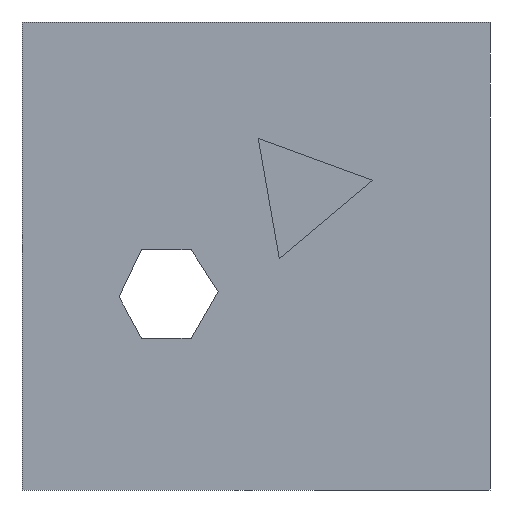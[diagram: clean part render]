
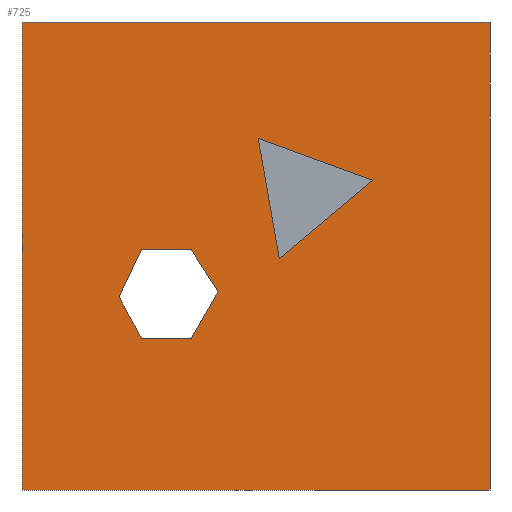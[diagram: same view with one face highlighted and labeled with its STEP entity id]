
A CAD part, front view. The second image highlights one B-rep face of the part: STEP entity #725.
In plain terms, the highlighted planar face has unit normal (0, -1, 0).
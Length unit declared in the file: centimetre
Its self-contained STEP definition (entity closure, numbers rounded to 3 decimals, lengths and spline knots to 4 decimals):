
#6 = EDGE_LOOP ( 'NONE', ( #777, #67, #100, #116 ) ) ;
#13 = FACE_OUTER_BOUND ( 'NONE', #6, .T. ) ;
#20 = VECTOR ( 'NONE', #1032, 100. ) ;
#27 = ORIENTED_EDGE ( 'NONE', *, *, #543, .F. ) ;
#40 = ORIENTED_EDGE ( 'NONE', *, *, #84, .F. ) ;
#41 = LINE ( 'NONE', #1052, #970 ) ;
#52 = LINE ( 'NONE', #1061, #506 ) ;
#53 = EDGE_CURVE ( 'NONE', #765, #374, #118, .T. ) ;
#67 = ORIENTED_EDGE ( 'NONE', *, *, #463, .F. ) ;
#73 = DIRECTION ( 'NONE',  ( 0., 0., -1. ) ) ;
#75 = AXIS2_PLACEMENT_3D ( 'NONE', #597, #519, #588 ) ;
#84 = EDGE_CURVE ( 'NONE', #95, #111, #41, .T. ) ;
#91 = CARTESIAN_POINT ( 'NONE',  ( 0., 0., 1000. ) ) ;
#95 = VERTEX_POINT ( 'NONE', #453 ) ;
#99 = CARTESIAN_POINT ( 'NONE',  ( 504.7538, 0., 751.1701 ) ) ;
#100 = ORIENTED_EDGE ( 'NONE', *, *, #764, .F. ) ;
#106 = EDGE_CURVE ( 'NONE', #518, #203, #878, .T. ) ;
#111 = VERTEX_POINT ( 'NONE', #1042 ) ;
#116 = ORIENTED_EDGE ( 'NONE', *, *, #708, .T. ) ;
#118 = LINE ( 'NONE', #950, #852 ) ;
#142 = LINE ( 'NONE', #732, #198 ) ;
#158 = EDGE_CURVE ( 'NONE', #442, #95, #536, .T. ) ;
#187 = CARTESIAN_POINT ( 'NONE',  ( 1000., 0., 1000. ) ) ;
#193 = DIRECTION ( 'NONE',  ( -0.547, 0., 0.837 ) ) ;
#198 = VECTOR ( 'NONE', #385, 100. ) ;
#199 = CARTESIAN_POINT ( 'NONE',  ( 255.4665, 0., 513.0383 ) ) ;
#203 = VERTEX_POINT ( 'NONE', #317 ) ;
#211 = CARTESIAN_POINT ( 'NONE',  ( 549.8069, 0., 494.3739 ) ) ;
#225 = ORIENTED_EDGE ( 'NONE', *, *, #967, .F. ) ;
#247 = CARTESIAN_POINT ( 'NONE',  ( 0., 0., 0. ) ) ;
#248 = CARTESIAN_POINT ( 'NONE',  ( 361.3279, 0., 513.0383 ) ) ;
#249 = ORIENTED_EDGE ( 'NONE', *, *, #53, .F. ) ;
#252 = CARTESIAN_POINT ( 'NONE',  ( 0., 0., 1000. ) ) ;
#253 = CARTESIAN_POINT ( 'NONE',  ( 0., 0., 0. ) ) ;
#270 = FACE_BOUND ( 'NONE', #886, .T. ) ;
#290 = VECTOR ( 'NONE', #779, 100. ) ;
#317 = CARTESIAN_POINT ( 'NONE',  ( 361.3279, 0., 513.0383 ) ) ;
#322 = VERTEX_POINT ( 'NONE', #253 ) ;
#341 = ORIENTED_EDGE ( 'NONE', *, *, #158, .F. ) ;
#350 = EDGE_CURVE ( 'NONE', #586, #765, #772, .T. ) ;
#374 = VERTEX_POINT ( 'NONE', #211 ) ;
#382 = CARTESIAN_POINT ( 'NONE',  ( 207.6114, 0., 412.5683 ) ) ;
#385 = DIRECTION ( 'NONE',  ( 0.5, 0., 0.866 ) ) ;
#395 = VECTOR ( 'NONE', #593, 100. ) ;
#435 = CARTESIAN_POINT ( 'NONE',  ( 419.3343, 0., 424.29 ) ) ;
#442 = VERTEX_POINT ( 'NONE', #580 ) ;
#453 = CARTESIAN_POINT ( 'NONE',  ( 255.4665, 0., 323.82 ) ) ;
#463 = EDGE_CURVE ( 'NONE', #928, #882, #819, .T. ) ;
#466 = CARTESIAN_POINT ( 'NONE',  ( 419.3343, 0., 424.29 ) ) ;
#472 = DIRECTION ( 'NONE',  ( -0.43, 0., -0.903 ) ) ;
#486 = CARTESIAN_POINT ( 'NONE',  ( 749.6724, 0., 661.7891 ) ) ;
#506 = VECTOR ( 'NONE', #472, 100. ) ;
#518 = VERTEX_POINT ( 'NONE', #435 ) ;
#519 = DIRECTION ( 'NONE',  ( 0., 1., 0. ) ) ;
#524 = LINE ( 'NONE', #1038, #290 ) ;
#536 = LINE ( 'NONE', #382, #20 ) ;
#543 = EDGE_CURVE ( 'NONE', #203, #898, #1006, .T. ) ;
#565 = VERTEX_POINT ( 'NONE', #652 ) ;
#580 = CARTESIAN_POINT ( 'NONE',  ( 207.6114, 0., 412.5683 ) ) ;
#586 = VERTEX_POINT ( 'NONE', #486 ) ;
#588 = DIRECTION ( 'NONE',  ( 0., 0., 1. ) ) ;
#591 = EDGE_LOOP ( 'NONE', ( #1080, #249, #605 ) ) ;
#593 = DIRECTION ( 'NONE',  ( 1., 0., 0. ) ) ;
#597 = CARTESIAN_POINT ( 'NONE',  ( 0., 0., 1000. ) ) ;
#603 = PLANE ( 'NONE',  #75 ) ;
#605 = ORIENTED_EDGE ( 'NONE', *, *, #350, .F. ) ;
#639 = ORIENTED_EDGE ( 'NONE', *, *, #106, .F. ) ;
#652 = CARTESIAN_POINT ( 'NONE',  ( 0., 0., 1000. ) ) ;
#667 = ORIENTED_EDGE ( 'NONE', *, *, #1004, .F. ) ;
#669 = LINE ( 'NONE', #252, #1069 ) ;
#696 = VECTOR ( 'NONE', #193, 100. ) ;
#708 = EDGE_CURVE ( 'NONE', #565, #322, #835, .T. ) ;
#725 = ADVANCED_FACE ( 'NONE', ( #270, #842, #13 ), #603, .F. ) ;
#732 = CARTESIAN_POINT ( 'NONE',  ( 361.3279, 0., 323.82 ) ) ;
#742 = DIRECTION ( 'NONE',  ( 0., 0., -1. ) ) ;
#764 = EDGE_CURVE ( 'NONE', #565, #928, #669, .T. ) ;
#765 = VERTEX_POINT ( 'NONE', #99 ) ;
#772 = LINE ( 'NONE', #853, #1009 ) ;
#777 = ORIENTED_EDGE ( 'NONE', *, *, #778, .T. ) ;
#778 = EDGE_CURVE ( 'NONE', #322, #882, #1003, .T. ) ;
#779 = DIRECTION ( 'NONE',  ( 0.767, 0., 0.642 ) ) ;
#787 = DIRECTION ( 'NONE',  ( 0.173, 0., -0.985 ) ) ;
#795 = DIRECTION ( 'NONE',  ( 1., 0., 0. ) ) ;
#819 = LINE ( 'NONE', #1000, #1029 ) ;
#835 = LINE ( 'NONE', #91, #1083 ) ;
#842 = FACE_BOUND ( 'NONE', #591, .T. ) ;
#852 = VECTOR ( 'NONE', #787, 100. ) ;
#853 = CARTESIAN_POINT ( 'NONE',  ( 749.6724, 0., 661.7891 ) ) ;
#866 = CARTESIAN_POINT ( 'NONE',  ( 1000., 0., 0. ) ) ;
#871 = VECTOR ( 'NONE', #927, 100. ) ;
#878 = LINE ( 'NONE', #466, #696 ) ;
#882 = VERTEX_POINT ( 'NONE', #866 ) ;
#886 = EDGE_LOOP ( 'NONE', ( #639, #225, #40, #341, #667, #27 ) ) ;
#898 = VERTEX_POINT ( 'NONE', #199 ) ;
#927 = DIRECTION ( 'NONE',  ( -1., 0., 0. ) ) ;
#928 = VERTEX_POINT ( 'NONE', #187 ) ;
#930 = DIRECTION ( 'NONE',  ( 1., 0., 0. ) ) ;
#934 = EDGE_CURVE ( 'NONE', #374, #586, #524, .T. ) ;
#950 = CARTESIAN_POINT ( 'NONE',  ( 504.7538, 0., 751.1701 ) ) ;
#967 = EDGE_CURVE ( 'NONE', #111, #518, #142, .T. ) ;
#970 = VECTOR ( 'NONE', #795, 100. ) ;
#1000 = CARTESIAN_POINT ( 'NONE',  ( 1000., 0., 1000. ) ) ;
#1003 = LINE ( 'NONE', #247, #395 ) ;
#1004 = EDGE_CURVE ( 'NONE', #898, #442, #52, .T. ) ;
#1006 = LINE ( 'NONE', #248, #871 ) ;
#1009 = VECTOR ( 'NONE', #1024, 100. ) ;
#1024 = DIRECTION ( 'NONE',  ( -0.939, 0., 0.343 ) ) ;
#1029 = VECTOR ( 'NONE', #742, 100. ) ;
#1032 = DIRECTION ( 'NONE',  ( 0.475, 0., -0.88 ) ) ;
#1038 = CARTESIAN_POINT ( 'NONE',  ( 549.8069, 0., 494.3739 ) ) ;
#1042 = CARTESIAN_POINT ( 'NONE',  ( 361.3279, 0., 323.82 ) ) ;
#1052 = CARTESIAN_POINT ( 'NONE',  ( 255.4665, 0., 323.82 ) ) ;
#1061 = CARTESIAN_POINT ( 'NONE',  ( 255.4665, 0., 513.0383 ) ) ;
#1069 = VECTOR ( 'NONE', #930, 100. ) ;
#1080 = ORIENTED_EDGE ( 'NONE', *, *, #934, .F. ) ;
#1083 = VECTOR ( 'NONE', #73, 100. ) ;
